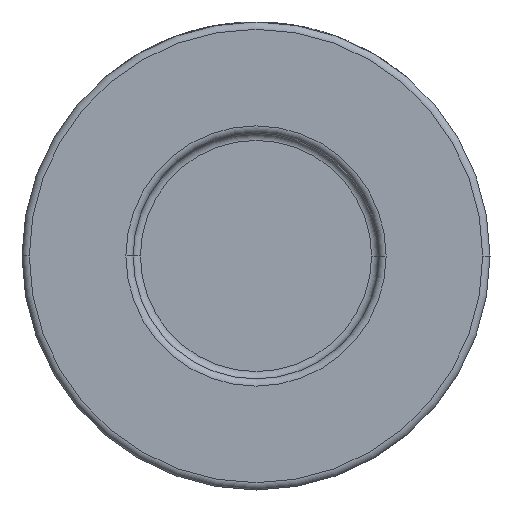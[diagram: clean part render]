
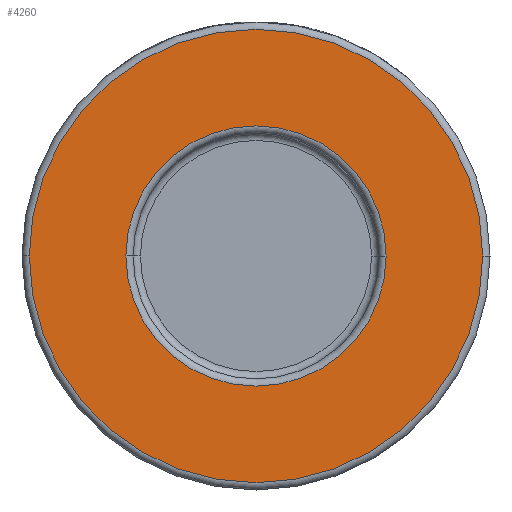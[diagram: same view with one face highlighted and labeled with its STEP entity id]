
A CAD part, front view. The second image highlights one B-rep face of the part: STEP entity #4260.
In plain terms, the highlighted planar face has unit normal (0, -1, 0).
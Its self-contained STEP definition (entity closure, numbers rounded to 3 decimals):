
#248 = FACE_BOUND ( 'NONE', #1607, .T. ) ;
#314 = FACE_OUTER_BOUND ( 'NONE', #1812, .T. ) ;
#739 = AXIS2_PLACEMENT_3D ( 'NONE', #3160, #1060, #1034 ) ;
#1034 = DIRECTION ( 'NONE',  ( 1., 0., 0. ) ) ;
#1060 = DIRECTION ( 'NONE',  ( 0., 1., 0. ) ) ;
#1150 = VERTEX_POINT ( 'NONE', #2093 ) ;
#1168 = EDGE_CURVE ( 'NONE', #1150, #3677, #2478, .T. ) ;
#1190 = AXIS2_PLACEMENT_3D ( 'NONE', #3641, #3575, #3594 ) ;
#1306 = PLANE ( 'NONE',  #3699 ) ;
#1325 = CARTESIAN_POINT ( 'NONE',  ( 32., -21., 0. ) ) ;
#1360 = DIRECTION ( 'NONE',  ( 1., 0., 0. ) ) ;
#1421 = ORIENTED_EDGE ( 'NONE', *, *, #2999, .T. ) ;
#1607 = EDGE_LOOP ( 'NONE', ( #2460, #1421 ) ) ;
#1646 = AXIS2_PLACEMENT_3D ( 'NONE', #3055, #2054, #2342 ) ;
#1668 = CARTESIAN_POINT ( 'NONE',  ( -17.8, -21., 0. ) ) ;
#1775 = AXIS2_PLACEMENT_3D ( 'NONE', #4554, #3108, #1360 ) ;
#1812 = EDGE_LOOP ( 'NONE', ( #2642, #2917 ) ) ;
#2033 = DIRECTION ( 'NONE',  ( 0., -1., 0. ) ) ;
#2054 = DIRECTION ( 'NONE',  ( 0., -1., 0. ) ) ;
#2093 = CARTESIAN_POINT ( 'NONE',  ( 17.8, -21., 0. ) ) ;
#2151 = CIRCLE ( 'NONE', #1646, 31. ) ;
#2342 = DIRECTION ( 'NONE',  ( 1., 0., 0. ) ) ;
#2460 = ORIENTED_EDGE ( 'NONE', *, *, #1168, .T. ) ;
#2478 = CIRCLE ( 'NONE', #739, 17.8 ) ;
#2505 = EDGE_CURVE ( 'NONE', #4162, #3563, #2583, .T. ) ;
#2583 = CIRCLE ( 'NONE', #1190, 31. ) ;
#2642 = ORIENTED_EDGE ( 'NONE', *, *, #2505, .T. ) ;
#2882 = CARTESIAN_POINT ( 'NONE',  ( -31., -21., 0. ) ) ;
#2917 = ORIENTED_EDGE ( 'NONE', *, *, #4218, .T. ) ;
#2999 = EDGE_CURVE ( 'NONE', #3677, #1150, #3615, .T. ) ;
#3055 = CARTESIAN_POINT ( 'NONE',  ( 0., -21., 0. ) ) ;
#3108 = DIRECTION ( 'NONE',  ( 0., 1., 0. ) ) ;
#3160 = CARTESIAN_POINT ( 'NONE',  ( 0., -21., 0. ) ) ;
#3450 = DIRECTION ( 'NONE',  ( 1., 0., 0. ) ) ;
#3563 = VERTEX_POINT ( 'NONE', #2882 ) ;
#3575 = DIRECTION ( 'NONE',  ( 0., -1., 0. ) ) ;
#3594 = DIRECTION ( 'NONE',  ( 1., 0., 0. ) ) ;
#3615 = CIRCLE ( 'NONE', #1775, 17.8 ) ;
#3641 = CARTESIAN_POINT ( 'NONE',  ( 0., -21., 0. ) ) ;
#3677 = VERTEX_POINT ( 'NONE', #1668 ) ;
#3699 = AXIS2_PLACEMENT_3D ( 'NONE', #1325, #2033, #3450 ) ;
#3811 = CARTESIAN_POINT ( 'NONE',  ( 31., -21., 0. ) ) ;
#4162 = VERTEX_POINT ( 'NONE', #3811 ) ;
#4218 = EDGE_CURVE ( 'NONE', #3563, #4162, #2151, .T. ) ;
#4260 = ADVANCED_FACE ( 'NONE', ( #248, #314 ), #1306, .T. ) ;
#4554 = CARTESIAN_POINT ( 'NONE',  ( 0., -21., 0. ) ) ;
